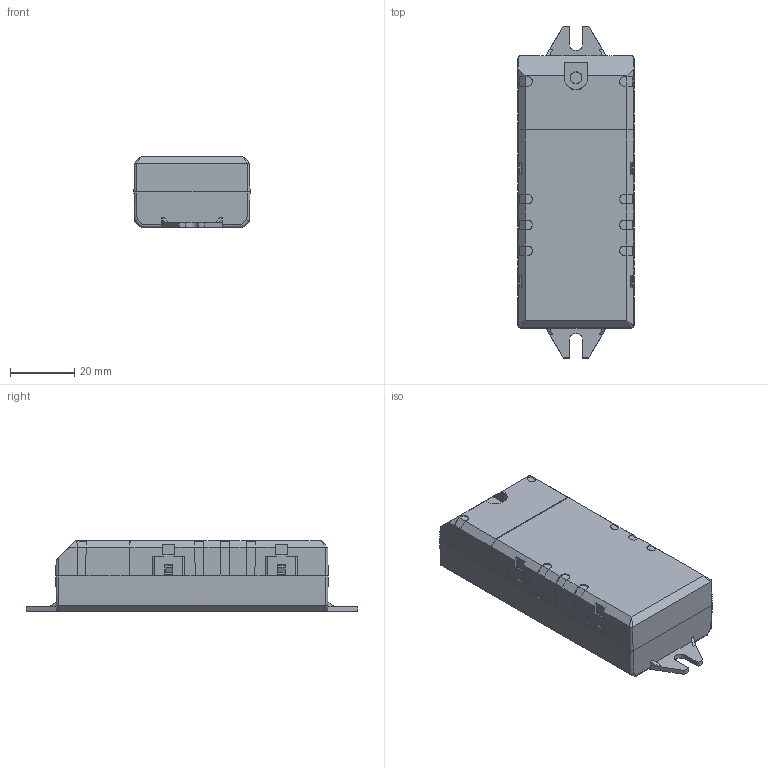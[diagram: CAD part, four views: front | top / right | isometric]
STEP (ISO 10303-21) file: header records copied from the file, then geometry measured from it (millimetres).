
FILE_DESCRIPTION(('Creo Elements/Direct Modeling STEP Export'),'2;1');
FILE_NAME('3D_K39.1.stp','2019-07-08T13:39:49',(''),(''),'PTC Creo Elements/Direct Modeling STEP processor for AP214 (Solid Model)','PTC Creo Elements/Direct Modeling 19.0E 27-Jun-2016 (C) Parametric Technology GmbH','');
FILE_SCHEMA(('AUTOMOTIVE_DESIGN { 1 0 10303 214 1 1 1 1 }'));
Length unit declared in the file: millimetre
Products named in the file (1): 3D_K39.1
Bounding box: 36 x 103 x 22 mm (x, y, z)
Surface area: 27018.1 mm2 (no closed solid volume)
Topology: 0 solids, 8 shells, 817 faces, 2170 edges, 1324 vertices
Faces by surface type: plane 732, bspline 47, cone 20, cylinder 10, extrusion 8
Entity records: 44105 total; most frequent: CARTESIAN_POINT 17616, ORIENTED_EDGE 4460, DIRECTION 3509, EDGE_CURVE 2167, VECTOR 1895, LINE 1887, VERTEX_POINT 1324, PRESENTATION_STYLE_ASSIGNMENT 854
